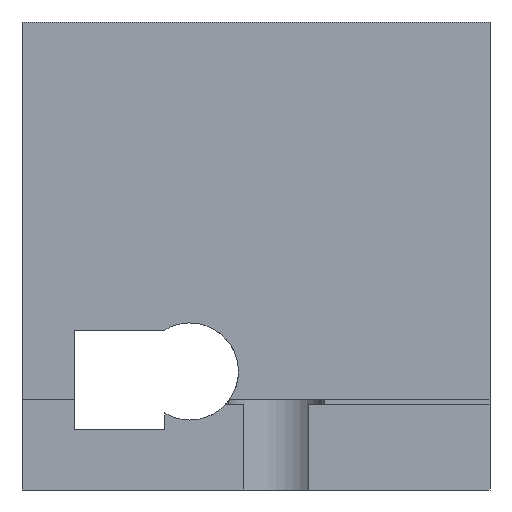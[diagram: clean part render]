
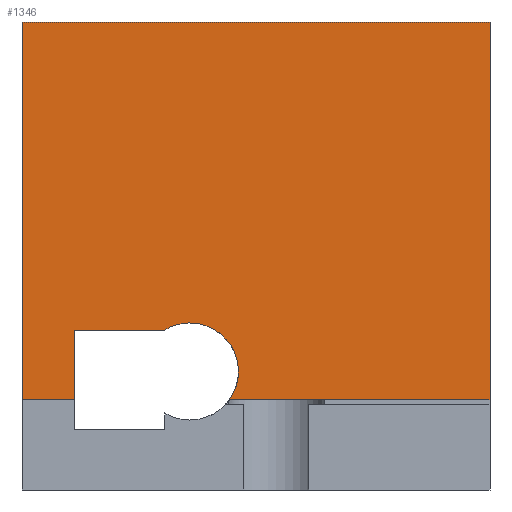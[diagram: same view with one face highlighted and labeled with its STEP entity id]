
A CAD part, front view. The second image highlights one B-rep face of the part: STEP entity #1346.
In plain terms, the highlighted planar face has unit normal (0, -1, 0).
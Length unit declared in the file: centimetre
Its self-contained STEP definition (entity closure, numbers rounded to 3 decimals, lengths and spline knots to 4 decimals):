
#1 = DIRECTION ( 'NONE',  ( 0., 1., 0. ) ) ;
#2 = CARTESIAN_POINT ( 'NONE',  ( 111.879, 0., 341.7448 ) ) ;
#25 = LINE ( 'NONE', #547, #1215 ) ;
#62 = CIRCLE ( 'NONE', #1453, 103.7639 ) ;
#69 = ORIENTED_EDGE ( 'NONE', *, *, #122, .T. ) ;
#122 = EDGE_CURVE ( 'NONE', #604, #987, #1210, .T. ) ;
#154 = CARTESIAN_POINT ( 'NONE',  ( 0., 0., 192.8086 ) ) ;
#163 = EDGE_CURVE ( 'NONE', #829, #629, #25, .T. ) ;
#182 = CARTESIAN_POINT ( 'NONE',  ( 111.879, 0., 341.7448 ) ) ;
#212 = CARTESIAN_POINT ( 'NONE',  ( 0., 0., 1000. ) ) ;
#312 = FACE_OUTER_BOUND ( 'NONE', #738, .T. ) ;
#318 = LINE ( 'NONE', #1550, #848 ) ;
#331 = PLANE ( 'NONE',  #924 ) ;
#440 = VERTEX_POINT ( 'NONE', #1214 ) ;
#497 = VERTEX_POINT ( 'NONE', #567 ) ;
#545 = VERTEX_POINT ( 'NONE', #1661 ) ;
#547 = CARTESIAN_POINT ( 'NONE',  ( 0., 0., 192.8086 ) ) ;
#567 = CARTESIAN_POINT ( 'NONE',  ( 358.7764, 0., 357.0118 ) ) ;
#578 = CARTESIAN_POINT ( 'NONE',  ( 443.121, 0., 192.8086 ) ) ;
#592 = ORIENTED_EDGE ( 'NONE', *, *, #863, .F. ) ;
#604 = VERTEX_POINT ( 'NONE', #1653 ) ;
#610 = EDGE_CURVE ( 'NONE', #635, #987, #1385, .T. ) ;
#612 = EDGE_CURVE ( 'NONE', #1047, #545, #1283, .T. ) ;
#617 = CARTESIAN_POINT ( 'NONE',  ( 0., 0., 1000. ) ) ;
#618 = DIRECTION ( 'NONE',  ( -1., 0., 0. ) ) ;
#623 = CARTESIAN_POINT ( 'NONE',  ( 111.879, 0., 192.8086 ) ) ;
#629 = VERTEX_POINT ( 'NONE', #1163 ) ;
#635 = VERTEX_POINT ( 'NONE', #2 ) ;
#646 = CARTESIAN_POINT ( 'NONE',  ( 0., 0., 1000. ) ) ;
#664 = EDGE_CURVE ( 'NONE', #1047, #604, #1043, .T. ) ;
#731 = ORIENTED_EDGE ( 'NONE', *, *, #610, .F. ) ;
#736 = CARTESIAN_POINT ( 'NONE',  ( 111.879, 0., 128.5833 ) ) ;
#738 = EDGE_LOOP ( 'NONE', ( #69, #731, #592, #1190, #787, #1583, #1127, #1506, #1259 ) ) ;
#741 = CARTESIAN_POINT ( 'NONE',  ( 358.7764, 0., 253.248 ) ) ;
#764 = VECTOR ( 'NONE', #1730, 100. ) ;
#771 = EDGE_CURVE ( 'NONE', #545, #629, #318, .T. ) ;
#787 = ORIENTED_EDGE ( 'NONE', *, *, #1382, .T. ) ;
#808 = DIRECTION ( 'NONE',  ( 0., 0., 1. ) ) ;
#829 = VERTEX_POINT ( 'NONE', #578 ) ;
#847 = DIRECTION ( 'NONE',  ( 0., 0., -1. ) ) ;
#848 = VECTOR ( 'NONE', #847, 100. ) ;
#863 = EDGE_CURVE ( 'NONE', #440, #635, #976, .T. ) ;
#869 = DIRECTION ( 'NONE',  ( 0., 1., 0. ) ) ;
#877 = VECTOR ( 'NONE', #618, 100. ) ;
#924 = AXIS2_PLACEMENT_3D ( 'NONE', #1262, #869, #1102 ) ;
#976 = LINE ( 'NONE', #182, #877 ) ;
#987 = VERTEX_POINT ( 'NONE', #623 ) ;
#1006 = DIRECTION ( 'NONE',  ( 0., 0., 1. ) ) ;
#1043 = LINE ( 'NONE', #646, #764 ) ;
#1047 = VERTEX_POINT ( 'NONE', #617 ) ;
#1060 = AXIS2_PLACEMENT_3D ( 'NONE', #741, #1358, #1006 ) ;
#1102 = DIRECTION ( 'NONE',  ( 0., 0., 1. ) ) ;
#1119 = CIRCLE ( 'NONE', #1060, 103.7639 ) ;
#1127 = ORIENTED_EDGE ( 'NONE', *, *, #771, .F. ) ;
#1141 = DIRECTION ( 'NONE',  ( 0., 0., -1. ) ) ;
#1163 = CARTESIAN_POINT ( 'NONE',  ( 1000., 0., 192.8086 ) ) ;
#1185 = CARTESIAN_POINT ( 'NONE',  ( 358.7764, 0., 253.248 ) ) ;
#1190 = ORIENTED_EDGE ( 'NONE', *, *, #1197, .T. ) ;
#1197 = EDGE_CURVE ( 'NONE', #440, #497, #62, .T. ) ;
#1210 = LINE ( 'NONE', #154, #1213 ) ;
#1213 = VECTOR ( 'NONE', #1728, 100. ) ;
#1214 = CARTESIAN_POINT ( 'NONE',  ( 304.5983, 0., 341.7448 ) ) ;
#1215 = VECTOR ( 'NONE', #1603, 100. ) ;
#1231 = VECTOR ( 'NONE', #1541, 100. ) ;
#1259 = ORIENTED_EDGE ( 'NONE', *, *, #664, .T. ) ;
#1262 = CARTESIAN_POINT ( 'NONE',  ( 0., 0., 1000. ) ) ;
#1283 = LINE ( 'NONE', #212, #1231 ) ;
#1346 = ADVANCED_FACE ( 'NONE', ( #312 ), #331, .F. ) ;
#1358 = DIRECTION ( 'NONE',  ( 0., 1., 0. ) ) ;
#1382 = EDGE_CURVE ( 'NONE', #497, #829, #1119, .T. ) ;
#1385 = LINE ( 'NONE', #736, #1599 ) ;
#1453 = AXIS2_PLACEMENT_3D ( 'NONE', #1185, #1, #808 ) ;
#1506 = ORIENTED_EDGE ( 'NONE', *, *, #612, .F. ) ;
#1541 = DIRECTION ( 'NONE',  ( 1., 0., 0. ) ) ;
#1550 = CARTESIAN_POINT ( 'NONE',  ( 1000., 0., 1000. ) ) ;
#1583 = ORIENTED_EDGE ( 'NONE', *, *, #163, .T. ) ;
#1599 = VECTOR ( 'NONE', #1141, 100. ) ;
#1603 = DIRECTION ( 'NONE',  ( 1., 0., 0. ) ) ;
#1653 = CARTESIAN_POINT ( 'NONE',  ( 0., 0., 192.8086 ) ) ;
#1661 = CARTESIAN_POINT ( 'NONE',  ( 1000., 0., 1000. ) ) ;
#1728 = DIRECTION ( 'NONE',  ( 1., 0., 0. ) ) ;
#1730 = DIRECTION ( 'NONE',  ( 0., 0., -1. ) ) ;
